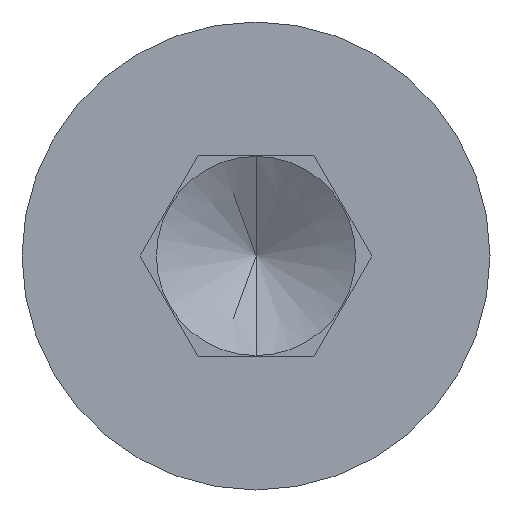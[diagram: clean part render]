
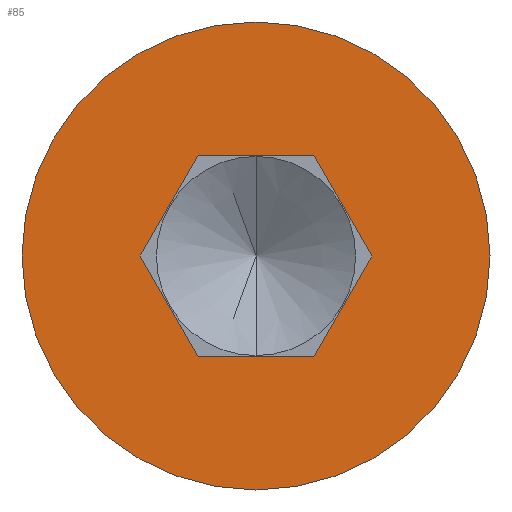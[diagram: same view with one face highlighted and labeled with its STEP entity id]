
A CAD part, left-side view. The second image highlights one B-rep face of the part: STEP entity #85.
In plain terms, the highlighted planar face has unit normal (-1, 0, 0).
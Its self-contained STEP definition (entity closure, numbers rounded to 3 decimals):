
#2 = VERTEX_POINT ( 'NONE', #395 ) ;
#5 = EDGE_CURVE ( 'NONE', #512, #569, #712, .T. ) ;
#10 = ORIENTED_EDGE ( 'NONE', *, *, #366, .T. ) ;
#35 = CARTESIAN_POINT ( 'NONE',  ( -4., -0.866, -1.5 ) ) ;
#40 = LINE ( 'NONE', #115, #341 ) ;
#43 = ORIENTED_EDGE ( 'NONE', *, *, #108, .T. ) ;
#56 = CARTESIAN_POINT ( 'NONE',  ( -4., 0., 0. ) ) ;
#64 = VECTOR ( 'NONE', #664, 1000. ) ;
#67 = FACE_OUTER_BOUND ( 'NONE', #471, .T. ) ;
#85 = ADVANCED_FACE ( 'NONE', ( #225, #67 ), #373, .T. ) ;
#104 = DIRECTION ( 'NONE',  ( -1., 0., 0. ) ) ;
#108 = EDGE_CURVE ( 'NONE', #583, #109, #570, .T. ) ;
#109 = VERTEX_POINT ( 'NONE', #221 ) ;
#110 = CARTESIAN_POINT ( 'NONE',  ( -4., 0.866, 1.5 ) ) ;
#114 = DIRECTION ( 'NONE',  ( 0., 0., 1. ) ) ;
#115 = CARTESIAN_POINT ( 'NONE',  ( -4., -0.866, 1.5 ) ) ;
#162 = DIRECTION ( 'NONE',  ( 0., 1., 0. ) ) ;
#171 = DIRECTION ( 'NONE',  ( 0., -0.5, 0.866 ) ) ;
#183 = EDGE_LOOP ( 'NONE', ( #43, #519, #766, #658, #303, #10 ) ) ;
#187 = ORIENTED_EDGE ( 'NONE', *, *, #687, .F. ) ;
#191 = CARTESIAN_POINT ( 'NONE',  ( -4., 0., 0. ) ) ;
#214 = AXIS2_PLACEMENT_3D ( 'NONE', #191, #633, #254 ) ;
#220 = LINE ( 'NONE', #288, #64 ) ;
#221 = CARTESIAN_POINT ( 'NONE',  ( -4., 0.866, -1.5 ) ) ;
#224 = VECTOR ( 'NONE', #171, 1000. ) ;
#225 = FACE_BOUND ( 'NONE', #183, .T. ) ;
#254 = DIRECTION ( 'NONE',  ( 0., 0., 1. ) ) ;
#266 = EDGE_CURVE ( 'NONE', #757, #783, #702, .T. ) ;
#267 = DIRECTION ( 'NONE',  ( 0., -0.5, -0.866 ) ) ;
#271 = CARTESIAN_POINT ( 'NONE',  ( -4., 1.732, 0. ) ) ;
#276 = VERTEX_POINT ( 'NONE', #545 ) ;
#286 = CARTESIAN_POINT ( 'NONE',  ( -4., -1.732, 0. ) ) ;
#288 = CARTESIAN_POINT ( 'NONE',  ( -4., 0.866, -1.5 ) ) ;
#303 = ORIENTED_EDGE ( 'NONE', *, *, #5, .T. ) ;
#305 = EDGE_CURVE ( 'NONE', #2, #276, #684, .T. ) ;
#328 = CARTESIAN_POINT ( 'NONE',  ( -4., -1.732, 0. ) ) ;
#341 = VECTOR ( 'NONE', #485, 1000. ) ;
#366 = EDGE_CURVE ( 'NONE', #569, #583, #597, .T. ) ;
#373 = PLANE ( 'NONE',  #590 ) ;
#395 = CARTESIAN_POINT ( 'NONE',  ( -4., 0., -3.5 ) ) ;
#421 = CARTESIAN_POINT ( 'NONE',  ( -4., 0.866, 1.5 ) ) ;
#435 = ORIENTED_EDGE ( 'NONE', *, *, #305, .F. ) ;
#471 = EDGE_LOOP ( 'NONE', ( #187, #435 ) ) ;
#474 = CARTESIAN_POINT ( 'NONE',  ( -4., 1.75, 0. ) ) ;
#476 = AXIS2_PLACEMENT_3D ( 'NONE', #56, #484, #114 ) ;
#484 = DIRECTION ( 'NONE',  ( 1., 0., 0. ) ) ;
#485 = DIRECTION ( 'NONE',  ( 0., -1., 0. ) ) ;
#494 = EDGE_CURVE ( 'NONE', #783, #512, #40, .T. ) ;
#512 = VERTEX_POINT ( 'NONE', #650 ) ;
#519 = ORIENTED_EDGE ( 'NONE', *, *, #608, .T. ) ;
#535 = DIRECTION ( 'NONE',  ( 0., 0., 1. ) ) ;
#545 = CARTESIAN_POINT ( 'NONE',  ( -4., 0., 3.5 ) ) ;
#554 = VECTOR ( 'NONE', #267, 1000. ) ;
#569 = VERTEX_POINT ( 'NONE', #286 ) ;
#570 = LINE ( 'NONE', #599, #732 ) ;
#574 = VECTOR ( 'NONE', #592, 1000. ) ;
#583 = VERTEX_POINT ( 'NONE', #724 ) ;
#590 = AXIS2_PLACEMENT_3D ( 'NONE', #474, #104, #535 ) ;
#592 = DIRECTION ( 'NONE',  ( 0., 0.5, -0.866 ) ) ;
#597 = LINE ( 'NONE', #35, #574 ) ;
#599 = CARTESIAN_POINT ( 'NONE',  ( -4., 0.866, -1.5 ) ) ;
#608 = EDGE_CURVE ( 'NONE', #109, #757, #220, .T. ) ;
#633 = DIRECTION ( 'NONE',  ( 1., 0., 0. ) ) ;
#650 = CARTESIAN_POINT ( 'NONE',  ( -4., -0.866, 1.5 ) ) ;
#658 = ORIENTED_EDGE ( 'NONE', *, *, #494, .T. ) ;
#664 = DIRECTION ( 'NONE',  ( 0., 0.5, 0.866 ) ) ;
#684 = CIRCLE ( 'NONE', #476, 3.5 ) ;
#687 = EDGE_CURVE ( 'NONE', #276, #2, #756, .T. ) ;
#702 = LINE ( 'NONE', #421, #224 ) ;
#712 = LINE ( 'NONE', #328, #554 ) ;
#724 = CARTESIAN_POINT ( 'NONE',  ( -4., -0.866, -1.5 ) ) ;
#732 = VECTOR ( 'NONE', #162, 1000. ) ;
#756 = CIRCLE ( 'NONE', #214, 3.5 ) ;
#757 = VERTEX_POINT ( 'NONE', #271 ) ;
#766 = ORIENTED_EDGE ( 'NONE', *, *, #266, .T. ) ;
#783 = VERTEX_POINT ( 'NONE', #110 ) ;
